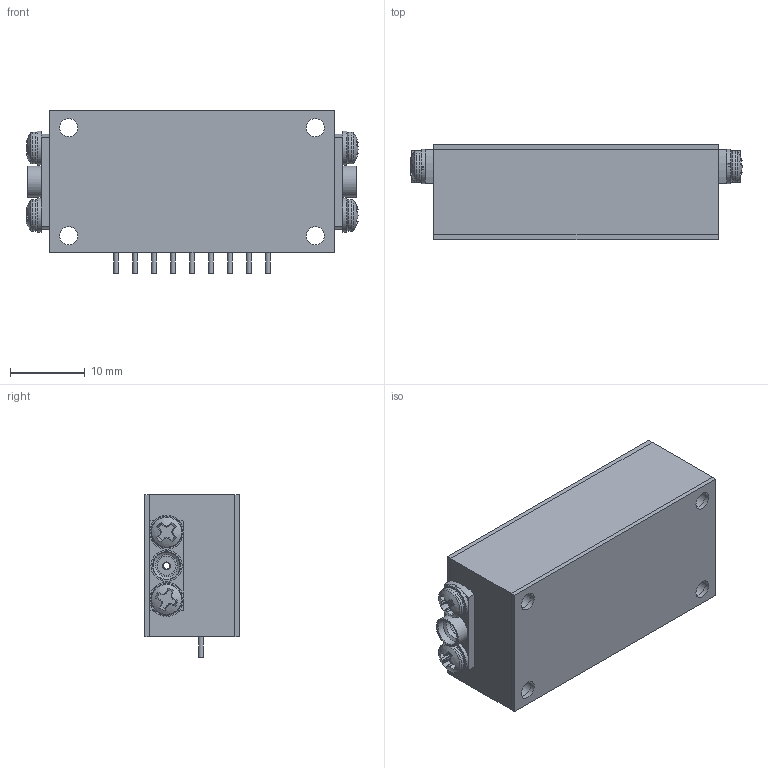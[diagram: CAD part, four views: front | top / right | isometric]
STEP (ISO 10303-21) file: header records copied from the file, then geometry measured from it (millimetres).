
FILE_DESCRIPTION (( 'STEP AP214' ), '1' );
FILE_NAME ('ASSEMBLY - DTA-2G18G-31D5-6-SMP.STEP', '2026-07-23T20:07:56', ( '' ), ( '' ), 'SwSTEP 2.0', 'SolidWorks 2025', '' );
FILE_SCHEMA (( 'AUTOMOTIVE_DESIGN' ));
Length unit declared in the file: inch
Products named in the file (1): ASSEMBLY - DTA-2G18G-31D5-6-SMP
Bounding box: 44.41 x 12.75 x 21.79 mm (x, y, z)
Volume: 9169 mm3; surface area: 8690.3 mm2
Topology: 23 solids, 23 shells, 612 faces, 2174 edges, 1805 vertices
Faces by surface type: plane 339, cylinder 177, torus 62, cone 30, sphere 4
Full cylindrical faces by diameter (mm): 0.635 x18, 0.889 x1, 1.016 x2, 1.321 x9, 1.676 x2, 1.778 x4, 1.93 x9, 2.032 x2, 2.057 x9, 2.184 x8, 2.438 x12, 2.464 x9, 2.54 x2, 2.616 x4, 2.946 x2, 3.175 x2, 3.607 x2, 3.937 x2, 4.166 x2, 4.242 x4
Entity records: 34589 total; most frequent: CARTESIAN_POINT 9293, ORIENTED_EDGE 3938, DIRECTION 3284, EDGE_CURVE 1969, VERTEX_POINT 1781, AXIS2_PLACEMENT_3D 1152, EDGE_LOOP 1028, LINE 980
